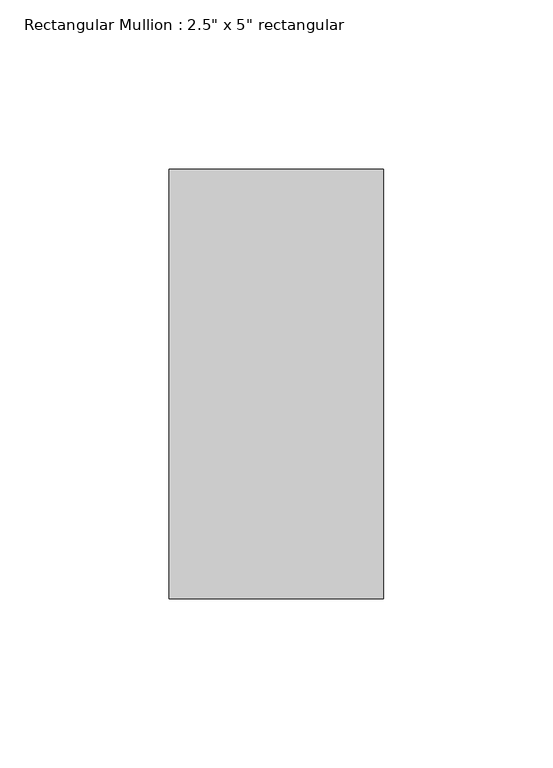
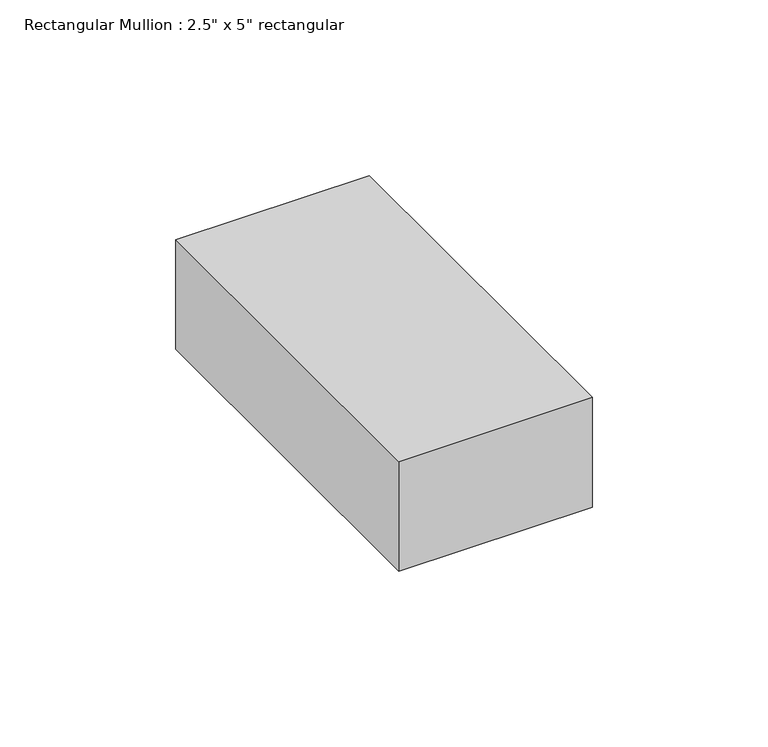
"""IFC4 building model written with IfcOpenShell, lengths in millimetres: member geometry."""

from ifc_helpers import new_model, si_unit, frame, origin, place, context, project, spatial, polyline, outline, extrude, source, transform, mapped, element, save


def member_7899ddbe(model_context):
    return source(origin(), model_context, "Body", "SweptSolid", [
        extrude(outline(polyline([(0.0, 63.5), (0.0, -63.5), (-63.5, -63.5), (-63.5, 63.5), (0.0, 63.5)])), frame((0.0, 0.0, -38.1), z_axis=(0.0, 0.0, 1.0), x_axis=(1.0, 0.0, 0.0)), (0.0, 0.0, 1.0), 38.1),
    ])


if __name__ == "__main__":
    model = new_model("IFC4")
    model_context = context("Model", 3, world=origin())
    ifc_project = project(units=[si_unit("LENGTHUNIT", "METRE", prefix="MILLI")], contexts=[model_context])
    site = spatial("IfcSite", under=ifc_project)
    building = spatial("IfcBuilding", under=site)
    placement = place(None, origin())
    member_shape = member_7899ddbe(model_context)
    element("IfcMember", 1, ObjectType="Rectangular Mullion : 2.5\" x 5\" rectangular", at=placement, inside=building, context=model_context, shape_type="MappedRepresentation", body=[
        mapped(member_shape, transform((0.0, 0.0, 0.0), x_axis=(1.0, 0.0, 0.0), y_axis=(0.0, 1.0, 0.0), z_axis=(0.0, 0.0, 1.0))),
    ])
    save(model, "model.ifc")
